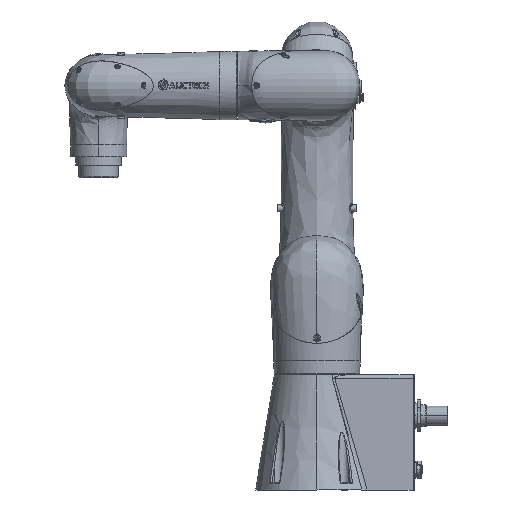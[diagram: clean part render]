
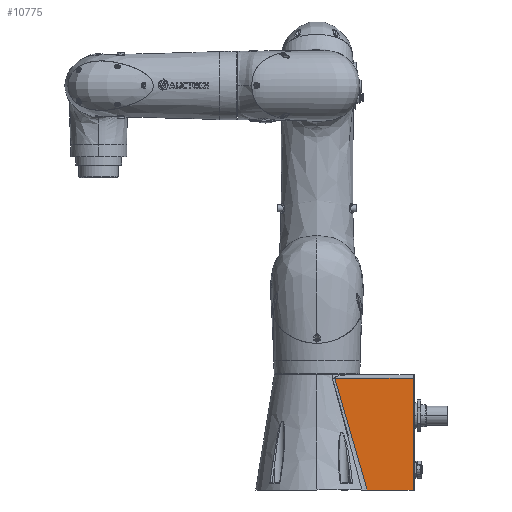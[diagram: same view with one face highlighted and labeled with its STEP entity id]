
A CAD part, left-side view. The second image highlights one B-rep face of the part: STEP entity #10775.
In plain terms, the highlighted planar face has unit normal (-1, 0, 0) as drawn and (0, 0, -1) by its records, which use the part's own axes.
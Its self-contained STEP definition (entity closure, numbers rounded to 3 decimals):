
#5790=PLANE('',#45798);
#6308=(
BOUNDED_CURVE()
B_SPLINE_CURVE(3,(#191570,#191571,#191572,#191573,#191574,#191575,#191576,
#191577,#191578,#191579,#191580,#191581,#191582,#191583,#191584,#191585,
#191586,#191587,#191588,#191589,#191590,#191591),.UNSPECIFIED.,.F.,.F.)
B_SPLINE_CURVE_WITH_KNOTS((4,2,2,2,2,2,2,2,2,2,4),(0.,0.125,0.25,0.375,
0.5,0.625,0.75,0.875,0.938,0.969,1.),.UNSPECIFIED.)
CURVE()
GEOMETRIC_REPRESENTATION_ITEM()
RATIONAL_B_SPLINE_CURVE((1.,1.,1.,1.,1.,1.,1.,1.,1.,1.,1.,1.,1.,1.,1.,1.,
1.,1.,1.,1.,1.,1.))
REPRESENTATION_ITEM('')
);
#10775=ADVANCED_FACE('NONE',(#13291),#5790,.F.);
#13291=FACE_OUTER_BOUND('',#16119,.T.);
#16119=EDGE_LOOP('',(#29715,#29716,#29717,#29718));
#17901=LINE('',#191522,#19612);
#17906=LINE('',#191567,#19617);
#17907=LINE('',#191592,#19618);
#19612=VECTOR('',#54916,1.);
#19617=VECTOR('',#54929,1.);
#19618=VECTOR('',#54930,1.);
#29715=ORIENTED_EDGE('',*,*,#39683,.T.);
#29716=ORIENTED_EDGE('',*,*,#39684,.T.);
#29717=ORIENTED_EDGE('',*,*,#39673,.T.);
#29718=ORIENTED_EDGE('',*,*,#39685,.F.);
#34340=VERTEX_POINT('',#191523);
#34341=VERTEX_POINT('',#191524);
#34346=VERTEX_POINT('',#191568);
#34347=VERTEX_POINT('',#191569);
#39673=EDGE_CURVE('',#34340,#34341,#17901,.T.);
#39683=EDGE_CURVE('',#34346,#34347,#17906,.T.);
#39684=EDGE_CURVE('',#34347,#34340,#6308,.T.);
#39685=EDGE_CURVE('',#34346,#34341,#17907,.T.);
#45798=AXIS2_PLACEMENT_3D('',#191593,#54931,#54932);
#54916=DIRECTION('',(-1.,0.,0.));
#54929=DIRECTION('',(1.,0.,0.));
#54930=DIRECTION('',(0.,-1.,0.));
#54931=DIRECTION('',(0.,0.,1.));
#54932=DIRECTION('',(1.,0.,0.));
#191522=CARTESIAN_POINT('',(90.582,0.,-58.));
#191523=CARTESIAN_POINT('',(-73.636,0.,-58.));
#191524=CARTESIAN_POINT('',(-141.,0.,-58.));
#191567=CARTESIAN_POINT('',(-23.287,164.,-58.));
#191568=CARTESIAN_POINT('',(-141.,164.,-58.));
#191569=CARTESIAN_POINT('',(-26.201,164.,-58.));
#191570=CARTESIAN_POINT('',(-26.201,164.,-58.));
#191571=CARTESIAN_POINT('',(-27.633,157.025,-58.));
#191572=CARTESIAN_POINT('',(-29.247,150.096,-58.));
#191573=CARTESIAN_POINT('',(-32.714,136.3,-58.));
#191574=CARTESIAN_POINT('',(-34.568,129.432,-58.));
#191575=CARTESIAN_POINT('',(-38.422,115.734,-58.));
#191576=CARTESIAN_POINT('',(-40.423,108.904,-58.));
#191577=CARTESIAN_POINT('',(-44.501,95.269,-58.));
#191578=CARTESIAN_POINT('',(-46.579,88.463,-58.));
#191579=CARTESIAN_POINT('',(-50.765,74.861,-58.));
#191580=CARTESIAN_POINT('',(-52.874,68.064,-58.));
#191581=CARTESIAN_POINT('',(-57.087,54.47,-58.));
#191582=CARTESIAN_POINT('',(-59.193,47.673,-58.));
#191583=CARTESIAN_POINT('',(-63.38,34.07,-58.));
#191584=CARTESIAN_POINT('',(-65.46,27.265,-58.));
#191585=CARTESIAN_POINT('',(-68.551,17.048,-58.));
#191586=CARTESIAN_POINT('',(-69.577,13.641,-58.));
#191587=CARTESIAN_POINT('',(-71.106,8.528,-58.));
#191588=CARTESIAN_POINT('',(-71.615,6.823,-58.));
#191589=CARTESIAN_POINT('',(-72.628,3.412,-58.));
#191590=CARTESIAN_POINT('',(-73.135,1.707,-58.));
#191591=CARTESIAN_POINT('',(-73.636,0.,-58.));
#191592=CARTESIAN_POINT('',(-141.,164.,-58.));
#191593=CARTESIAN_POINT('',(90.582,169.,-58.));
